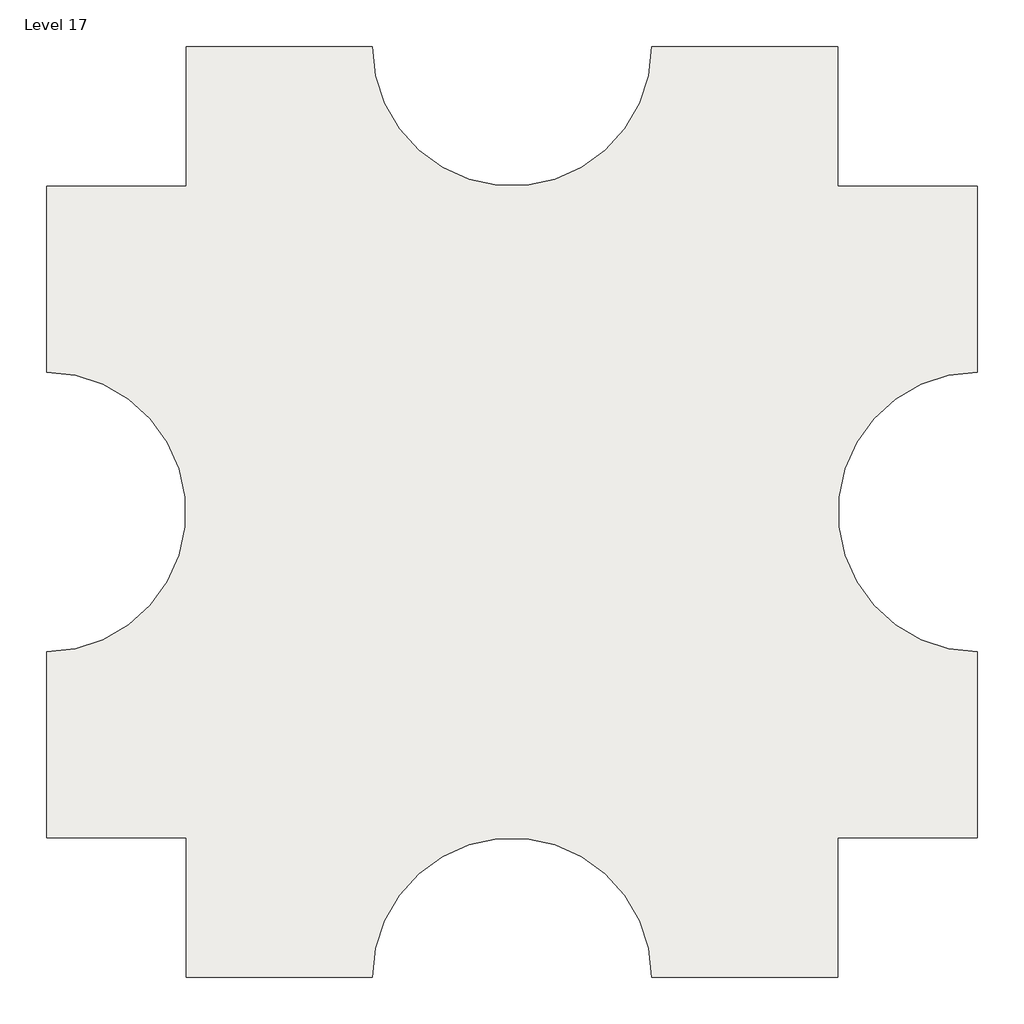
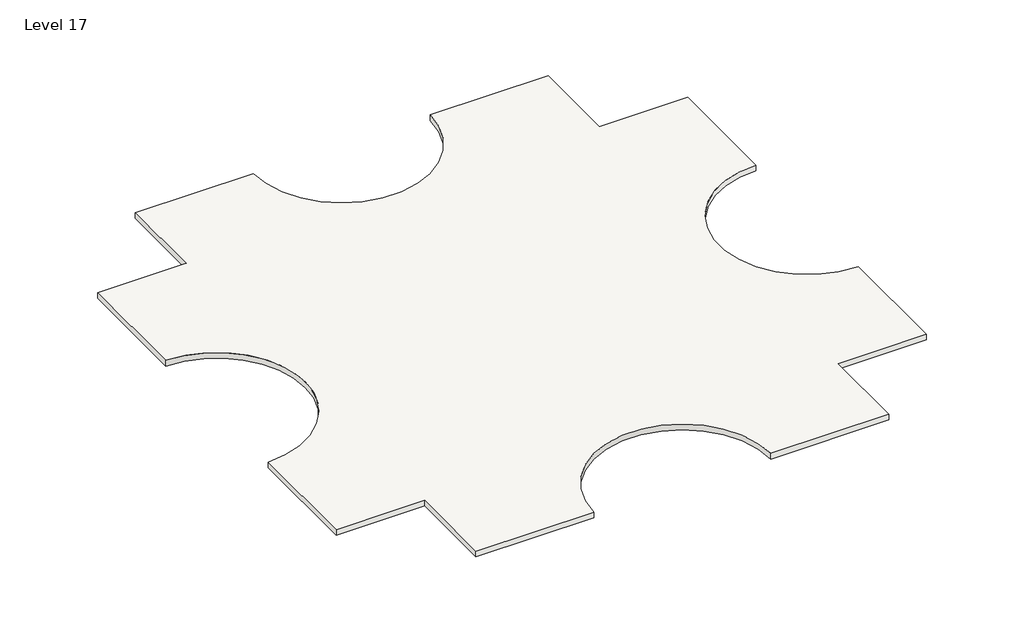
# One storey: 1 slab.
"""IFC4 building model written with IfcOpenShell, lengths in millimetres."""

import ifcopenshell
import ifcopenshell.guid

model = None  # the IFC model being written
_history = None  # IfcOwnerHistory: only IFC2X3 demands one
_inside = {}  # id of a spatial element -> (the spatial element, [elements in it])
_under = {}  # id of a project, library or spatial element -> (it, [spatial elements below it])
_declared = {}  # id of a project -> (the project, [libraries it declares])
_typed = {}  # id of a type object -> (the type object, [elements of that type])
_made_of = {}  # id of a material, layer set ... -> (it, [elements and type objects made of it])


def new_model(schema):
    """Start an empty IFC model of exactly this schema.

    Asked for "IFC4X3", IfcOpenShell would pick the latest addendum, in which some entities
    have other attributes; the version numbers below select the first issue.
    IFC2X3 requires an IfcOwnerHistory on every rooted entity: one is made here for all.
    """
    global model, _history
    if schema == "IFC4X3":
        model = ifcopenshell.file(schema_version=(4, 3, 0, 0))
    else:
        model = ifcopenshell.file(schema=schema)
    _inside.clear()
    _under.clear()
    _declared.clear()
    _typed.clear()
    _made_of.clear()
    _history = None
    if model.schema == "IFC2X3":
        org = make("IfcOrganization", Name="unknown")
        user = make(
            "IfcPersonAndOrganization",
            ThePerson=make("IfcPerson", FamilyName="unknown"),
            TheOrganization=org,
        )
        app = make(
            "IfcApplication",
            ApplicationDeveloper=org,
            Version="unknown",
            ApplicationFullName="unknown",
            ApplicationIdentifier="unknown",
        )
        _history = make(
            "IfcOwnerHistory",
            OwningUser=user,
            OwningApplication=app,
            ChangeAction="ADDED",
            CreationDate=0,
        )
    return model


def make(cls, **values):
    """One entity of the class cls with the attributes given. An attribute that is None is left unset."""
    return model.create_entity(
        cls, **{name: value for name, value in values.items() if value is not None}
    )


def rooted(cls, **values):
    """An entity with a GlobalId (a new one), such as an element, a storey or a relation."""
    return make(cls, GlobalId=ifcopenshell.guid.new(), OwnerHistory=_history, **values)


def si_unit(unit_type, name, prefix=None):
    """IfcSIUnit, for example si_unit("LENGTHUNIT", "METRE", prefix="MILLI")."""
    return make("IfcSIUnit", UnitType=unit_type, Prefix=prefix, Name=name)


def assignment(units):
    """IfcUnitAssignment: the units of a project."""
    return None if units is None else make("IfcUnitAssignment", Units=units)


def point(xyz):
    """IfcCartesianPoint."""
    return None if xyz is None else make("IfcCartesianPoint", Coordinates=xyz)


def direction(xyz):
    """IfcDirection."""
    return None if xyz is None else make("IfcDirection", DirectionRatios=xyz)


def frame(location, z_axis=None, x_axis=None):
    """IfcAxis2Placement3D, a coordinate frame: its origin and axes. An axis left out is left unset."""
    return make(
        "IfcAxis2Placement3D",
        Location=point(location),
        Axis=direction(z_axis),
        RefDirection=direction(x_axis),
    )


def frame_2d(location, x_axis=None):
    """IfcAxis2Placement2D, a coordinate frame in the plane: its origin and x axis."""
    return make(
        "IfcAxis2Placement2D", Location=point(location), RefDirection=direction(x_axis)
    )


def origin():
    """The frame at (0, 0, 0) with its axes left unset."""
    return frame((0.0, 0.0, 0.0))


def place(relative_to, where):
    """IfcLocalPlacement: puts the frame where relative to a parent placement (None: the world)."""
    return make(
        "IfcLocalPlacement", PlacementRelTo=relative_to, RelativePlacement=where
    )


def context(
    kind, dimensions, precision=None, world=None, true_north=None, identifier=None
):
    """IfcGeometricRepresentationContext, for example the 3D "Model" context."""
    return make(
        "IfcGeometricRepresentationContext",
        ContextIdentifier=identifier,
        ContextType=kind,
        CoordinateSpaceDimension=dimensions,
        Precision=precision,
        WorldCoordinateSystem=world,
        TrueNorth=true_north,
    )


def project(units=None, contexts=None):
    """IfcProject with its units and contexts."""
    return rooted(
        "IfcProject",
        Name="project",
        RepresentationContexts=contexts,
        UnitsInContext=assignment(units),
    )


def spatial(cls, under=None, at=None, **own):
    """A site, building, storey or space (cls), placed at a placement, below another one or the project."""
    s = rooted(cls, ObjectPlacement=at, **own)
    if under is not None:
        _under.setdefault(under.id(), (under, []))[1].append(s)
    return s


def polyline(points):
    """IfcPolyline through the points."""
    return make("IfcPolyline", Points=[point(p) for p in points])


def circle_curve(where, radius):
    """IfcCircle in the frame where."""
    return make("IfcCircle", Position=where, Radius=radius)


def trimmed(basis, trim1, trim2, sense, master):
    """IfcTrimmedCurve: the piece of a basis curve between two trims."""
    return make(
        "IfcTrimmedCurve",
        BasisCurve=basis,
        Trim1=trim1,
        Trim2=trim2,
        SenseAgreement=sense,
        MasterRepresentation=master,
    )


def segment(curve, same_sense, transition):
    """IfcCompositeCurveSegment."""
    return make(
        "IfcCompositeCurveSegment",
        Transition=transition,
        SameSense=same_sense,
        ParentCurve=curve,
    )


def composite_curve(segments, self_intersect=None):
    """IfcCompositeCurve: segments joined end to end."""
    return make("IfcCompositeCurve", Segments=segments, SelfIntersect=self_intersect)


def outline(outer, holes=None, kind="AREA"):
    """IfcArbitraryClosedProfileDef: a profile drawn as a closed curve; with holes, ...WithVoids."""
    if holes is None:
        return make("IfcArbitraryClosedProfileDef", ProfileType=kind, OuterCurve=outer)
    return make(
        "IfcArbitraryProfileDefWithVoids",
        ProfileType=kind,
        OuterCurve=outer,
        InnerCurves=holes,
    )


def extrude(swept, where, along, depth):
    """IfcExtrudedAreaSolid: the profile swept, set in the frame where, extruded along a direction by depth."""
    return make(
        "IfcExtrudedAreaSolid",
        SweptArea=swept,
        Position=where,
        ExtrudedDirection=direction(along),
        Depth=depth,
    )


def shape(context_of_items, identifier, shape_type, items):
    """IfcShapeRepresentation: the items that make up one representation, for example the "Body"."""
    return make(
        "IfcShapeRepresentation",
        ContextOfItems=context_of_items,
        RepresentationIdentifier=identifier,
        RepresentationType=shape_type,
        Items=items,
    )


def made_of(thing, what):
    """Note that an element or type object is made of a material, layer set ...; save() writes the relation."""
    if what is not None:
        _made_of.setdefault(what.id(), (what, []))[1].append(thing)
    return thing


def element(
    cls,
    number,
    at=None,
    inside=None,
    cuts=None,
    type_object=None,
    material=None,
    context=None,
    identifier="Body",
    shape_type=None,
    held_by="IfcProductDefinitionShape",
    body=None,
    shapes=None,
    **own,
):
    """One element of the class cls, such as IfcWall. Its Tag is "e" and its number.

    at: its placement. inside: the storey or other place that contains it. cuts: it is an
    opening in that element (IfcRelVoidsElement). A single representation is given by context,
    identifier, shape_type and body (its items); several are given by shapes. held_by: the class
    of the entity that holds the representations. save() writes the other relations.
    """
    e = rooted(cls, Tag="e%d" % number, ObjectPlacement=at, **own)
    if body is not None:
        shapes = [shape(context, identifier, shape_type, body)]
    if shapes is not None:
        e.Representation = make(held_by, Representations=shapes)
    if inside is not None:
        _inside.setdefault(inside.id(), (inside, []))[1].append(e)
    if cuts is not None:
        rooted(
            "IfcRelVoidsElement", RelatingBuildingElement=cuts, RelatedOpeningElement=e
        )
    if type_object is not None:
        _typed.setdefault(type_object.id(), (type_object, []))[1].append(e)
    return made_of(e, material)


def aggregate(whole, parts):
    """IfcRelAggregates: a whole, such as a stair, and the parts it consists of."""
    return rooted("IfcRelAggregates", RelatingObject=whole, RelatedObjects=parts)


def save(model, path):
    """Write the relations noted so far, then the file.

    IfcRelAggregates (storeys below a building ...), IfcRelContainedInSpatialStructure (elements
    in a storey), IfcRelDefinesByType, IfcRelAssociatesMaterial and IfcRelDeclares: one each for
    every whole, place, type object, material and project.
    """
    for whole, parts in _under.values():
        aggregate(whole, parts)
    for where, things in _inside.values():
        rooted(
            "IfcRelContainedInSpatialStructure",
            RelatedElements=things,
            RelatingStructure=where,
        )
    for kind, things in _typed.values():
        rooted("IfcRelDefinesByType", RelatedObjects=things, RelatingType=kind)
    for what, things in _made_of.values():
        rooted("IfcRelAssociatesMaterial", RelatedObjects=things, RelatingMaterial=what)
    for by, libraries in _declared.values():
        rooted("IfcRelDeclares", RelatingContext=by, RelatedDefinitions=libraries)
    model.write(path)


model = new_model("IFC4")

# Units and contexts
model_context = context("Model", 3, world=origin())
ifc_project = project(units=[si_unit("LENGTHUNIT", "METRE", prefix="MILLI")], contexts=[model_context])

# Site, building, storey
site = spatial("IfcSite", under=ifc_project)
building = spatial("IfcBuilding", under=site)
storey = spatial("IfcBuildingStorey", under=building, Name="Level 17", Elevation=48768.0)

# Slab
placement = place(None, origin())
element("IfcSlab", 1, ObjectType="Generic - 12\"", at=placement, inside=storey, context=model_context, shape_type="SweptSolid", body=[
    extrude(outline(composite_curve([segment(polyline([(-7150.3629456, 4479.6634547), (-7150.3629456, 9051.6634547), (-1054.3629456, 9051.6634547)]), True, "CONTINUOUS"), segment(trimmed(circle_curve(frame_2d((3517.6370544, 9051.6634547)), 4572.0), [point((-1054.3629456, 9051.6634547))], [point((8089.6370544, 9051.6634547))], True, "CARTESIAN"), True, "CONTINUOUS"), segment(polyline([(8089.6370544, 9051.6634547), (14185.6370544, 9051.6634547), (14185.6370544, 4479.6634547), (18757.6370544, 4479.6634547), (18757.6370544, -1616.3365453)]), True, "CONTINUOUS"), segment(trimmed(circle_curve(frame_2d((18757.6370544, -6188.3365453)), 4572.0), [point((18757.6370544, -1616.3365453))], [point((18757.6370544, -10760.3365453))], True, "CARTESIAN"), True, "CONTINUOUS"), segment(polyline([(18757.6370544, -10760.3365453), (18757.6370544, -16856.3365453), (14185.6370544, -16856.3365453), (14185.6370544, -21428.3365453), (8089.6370544, -21428.3365453)]), True, "CONTINUOUS"), segment(trimmed(circle_curve(frame_2d((3517.6370544, -21428.3365453)), 4572.0), [point((8089.6370544, -21428.3365453))], [point((-1054.3629456, -21428.3365453))], True, "CARTESIAN"), True, "CONTINUOUS"), segment(polyline([(-1054.3629456, -21428.3365453), (-7150.3629456, -21428.3365453), (-7150.3629456, -16856.3365453), (-11722.3629456, -16856.3365453), (-11722.3629456, -10760.3365453)]), True, "CONTINUOUS"), segment(trimmed(circle_curve(frame_2d((-11722.3629456, -6188.3365453)), 4572.0), [point((-11722.3629456, -10760.3365453))], [point((-11722.3629456, -1616.3365453))], True, "CARTESIAN"), True, "CONTINUOUS"), segment(polyline([(-11722.3629456, -1616.3365453), (-11722.3629456, 4479.6634547), (-7150.3629456, 4479.6634547)]), True, "CONTINUOUS")], self_intersect=False)), frame((0.0, 0.0, 48463.2), z_axis=(0.0, 0.0, 1.0), x_axis=(1.0, 0.0, 0.0)), (0.0, 0.0, 1.0), 304.8),
])

save(model, "model.ifc")
